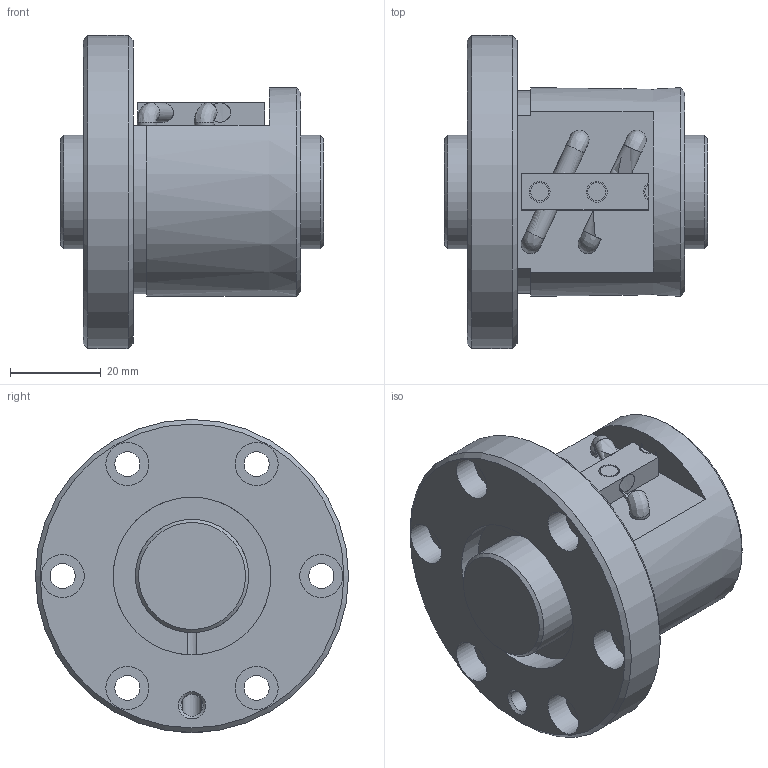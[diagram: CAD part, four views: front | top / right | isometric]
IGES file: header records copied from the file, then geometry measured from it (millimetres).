
Start section: Data from Parasolid IGES Translator 26.0.171, Copyright(c) 2006 Siemens PLM Software. All Rights Reserved.
Global section: file name: BIF2504V-5RRG0+58LC0_000.igs; native system: By Siemens PLM Incorporated; preprocessor: XPlus GENERIC/IGES 26.0.171; author: Noname; organization: Noname; date: 20240715.081717; units: millimetre
Bounding box: 58 x 69 x 69 mm (x, y, z)
Surface area: 26361.4 mm2 (no closed solid volume)
Topology: 0 solids, 0 shells, 106 faces, 518 edges, 480 vertices
Faces by surface type: revolution 62, extrusion 44
